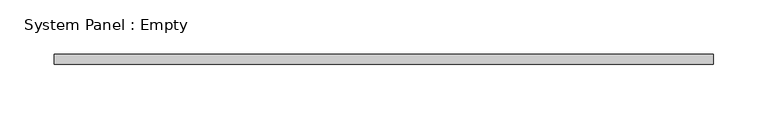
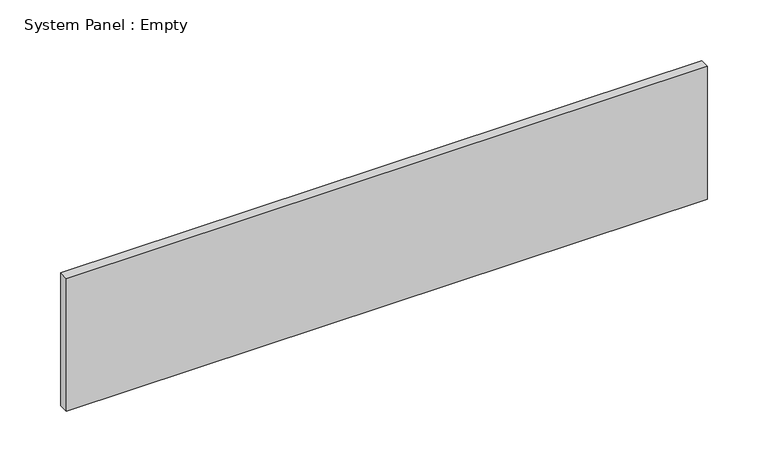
"""IFC4 building model written with IfcOpenShell, lengths in millimetres: plate geometry, System Panel : Empty."""

from ifc_helpers import new_model, si_unit, origin, origin_with_axes, place, context, project, spatial, polyline, outline, extrude, source, transform, mapped, element, save


def system_panel_empty_25c6223c(model_context):
    return source(origin(), model_context, "Body", "SweptSolid", [
        extrude(outline(polyline([(304.8000002, -4.7625), (-304.8000002, -4.7625), (-304.8000002, 4.7625), (304.8000002, 4.7625), (304.8000002, -4.7625)])), origin_with_axes(), (0.0, 0.0, 1.0), 133.35),
    ])


if __name__ == "__main__":
    model = new_model("IFC4")
    model_context = context("Model", 3, world=origin())
    ifc_project = project(units=[si_unit("LENGTHUNIT", "METRE", prefix="MILLI")], contexts=[model_context])
    site = spatial("IfcSite", under=ifc_project)
    building = spatial("IfcBuilding", under=site)
    placement = place(None, origin())
    system_panel_empty_shape = system_panel_empty_25c6223c(model_context)
    element("IfcPlate", 1, ObjectType="System Panel : Empty", at=placement, inside=building, context=model_context, shape_type="MappedRepresentation", body=[
        mapped(system_panel_empty_shape, transform((0.0, 0.0, 0.0), x_axis=(1.0, 0.0, 0.0), y_axis=(0.0, 1.0, 0.0), z_axis=(0.0, 0.0, 1.0))),
    ])
    save(model, "model.ifc")
